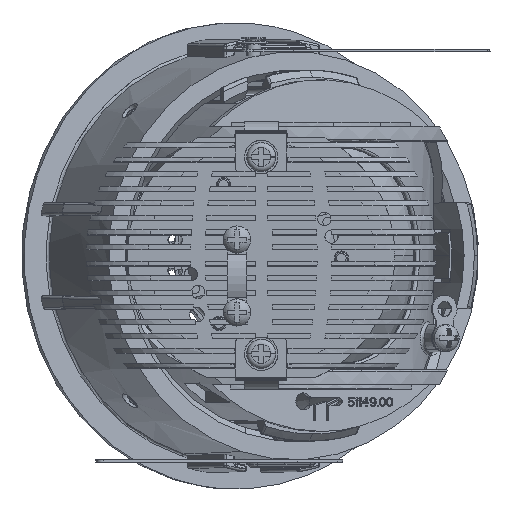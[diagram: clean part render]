
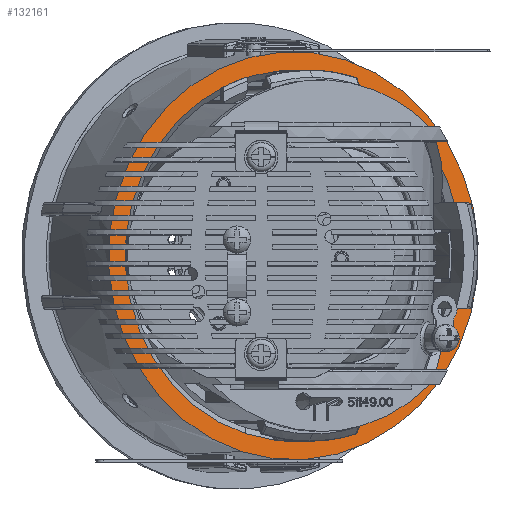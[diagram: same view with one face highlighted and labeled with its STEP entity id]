
A CAD part, top view. The second image highlights one B-rep face of the part: STEP entity #132161.
In plain terms, the highlighted planar face has unit normal (0.423, 0, 0.906).
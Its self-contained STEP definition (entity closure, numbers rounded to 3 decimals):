
#128618=CARTESIAN_POINT('Vertex',(20.076,40.309,15.464)) ;
#128621=CARTESIAN_POINT('Axis2P3D Location',(9.357,0.,20.463)) ;
#128625=CARTESIAN_POINT('Vertex',(-1.361,-40.309,25.461)) ;
#129654=CARTESIAN_POINT('Axis2P3D Location',(9.357,0.,20.463)) ;
#132134=CARTESIAN_POINT('Axis2P3D Location',(33.838,27.011,9.046)) ;
#132143=CARTESIAN_POINT('Axis2P3D Location',(9.357,0.,20.463)) ;
#132147=CARTESIAN_POINT('Vertex',(-0.39,-36.655,25.008)) ;
#132149=CARTESIAN_POINT('Vertex',(19.104,36.655,15.917)) ;
#132152=CARTESIAN_POINT('Axis2P3D Location',(9.357,0.,20.463)) ;
#128622=DIRECTION('Axis2P3D Direction',(-0.423,0.,-0.906)) ;
#129655=DIRECTION('Axis2P3D Direction',(-0.423,0.,-0.906)) ;
#132135=DIRECTION('Axis2P3D Direction',(0.423,0.,0.906)) ;
#132136=DIRECTION('Axis2P3D XDirection',(-0.641,-0.707,0.299)) ;
#132144=DIRECTION('Axis2P3D Direction',(0.423,0.,0.906)) ;
#132153=DIRECTION('Axis2P3D Direction',(0.423,0.,0.906)) ;
#128623=AXIS2_PLACEMENT_3D('Circle Axis2P3D',#128621,#128622,$) ;
#129656=AXIS2_PLACEMENT_3D('Circle Axis2P3D',#129654,#129655,$) ;
#132137=AXIS2_PLACEMENT_3D('Plane Axis2P3D',#132134,#132135,#132136) ;
#132145=AXIS2_PLACEMENT_3D('Circle Axis2P3D',#132143,#132144,$) ;
#132154=AXIS2_PLACEMENT_3D('Circle Axis2P3D',#132152,#132153,$) ;
#132140=ORIENTED_EDGE('',*,*,#129658,.T.) ;
#132141=ORIENTED_EDGE('',*,*,#128627,.F.) ;
#132158=ORIENTED_EDGE('',*,*,#132151,.F.) ;
#132159=ORIENTED_EDGE('',*,*,#132156,.F.) ;
#132160=FACE_BOUND('',#132157,.T.) ;
#132161=ADVANCED_FACE('31\\23\\MANIFOLD_SOLID_BREP #115198',(#132142,#132160),#132138,.T.) ;
#128624=CIRCLE('generated circle',#128623,42.008) ;
#129657=CIRCLE('generated circle',#129656,42.008) ;
#132146=CIRCLE('generated circle',#132145,38.2) ;
#132155=CIRCLE('generated circle',#132154,38.2) ;
#128627=EDGE_CURVE('',#128619,#128626,#128624,.T.) ;
#129658=EDGE_CURVE('',#128619,#128626,#129657,.F.) ;
#132151=EDGE_CURVE('',#132148,#132150,#132146,.T.) ;
#132156=EDGE_CURVE('',#132150,#132148,#132155,.T.) ;
#132139=EDGE_LOOP('',(#132140,#132141)) ;
#132157=EDGE_LOOP('',(#132158,#132159)) ;
#132142=FACE_OUTER_BOUND('',#132139,.T.) ;
#132138=PLANE('',#132137) ;
#128619=VERTEX_POINT('',#128618) ;
#128626=VERTEX_POINT('',#128625) ;
#132148=VERTEX_POINT('',#132147) ;
#132150=VERTEX_POINT('',#132149) ;
